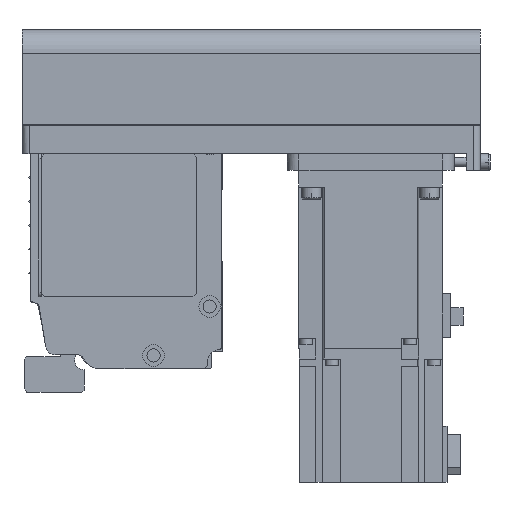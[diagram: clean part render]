
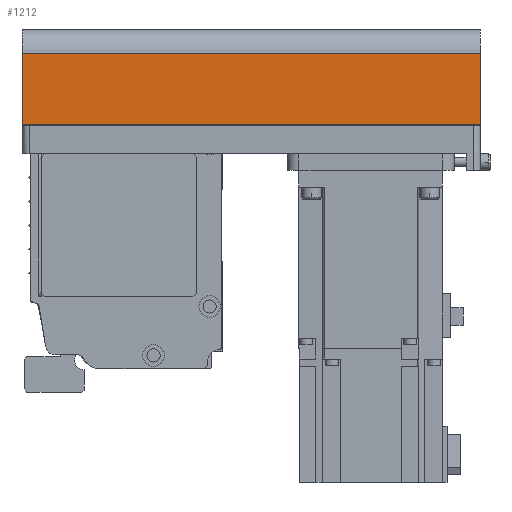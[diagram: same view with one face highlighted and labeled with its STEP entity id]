
A CAD part, left-side view. The second image highlights one B-rep face of the part: STEP entity #1212.
In plain terms, the highlighted planar face has unit normal (-1, 0, 0) as drawn and (0, -1, 0) by its records, which use the part's own axes.
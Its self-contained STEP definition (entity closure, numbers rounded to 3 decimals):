
#1212 = ADVANCED_FACE( '', ( #2890 ), #2891, .T. );
#2890 = FACE_OUTER_BOUND( '', #5162, .T. );
#2891 = PLANE( '', #5163 );
#5162 = EDGE_LOOP( '', ( #8464, #8465, #8466, #8467 ) );
#5163 = AXIS2_PLACEMENT_3D( '', #8468, #8469, #8470 );
#8464 = ORIENTED_EDGE( '', *, *, #14017, .F. );
#8465 = ORIENTED_EDGE( '', *, *, #14018, .F. );
#8466 = ORIENTED_EDGE( '', *, *, #13251, .T. );
#8467 = ORIENTED_EDGE( '', *, *, #13817, .T. );
#8468 = CARTESIAN_POINT( '', ( -192., -40., -12.1 ) );
#8469 = DIRECTION( '', ( 0., -1., 0. ) );
#8470 = DIRECTION( '', ( 0., 0., -1. ) );
#13251 = EDGE_CURVE( '', #15808, #15816, #15818, .T. );
#13817 = EDGE_CURVE( '', #15816, #16786, #16788, .T. );
#14017 = EDGE_CURVE( '', #17109, #16786, #17110, .T. );
#14018 = EDGE_CURVE( '', #15808, #17109, #17111, .T. );
#15808 = VERTEX_POINT( '', #19489 );
#15816 = VERTEX_POINT( '', #19500 );
#15818 = LINE( '', #19502, #19503 );
#16786 = VERTEX_POINT( '', #20794 );
#16788 = LINE( '', #20796, #20797 );
#17109 = VERTEX_POINT( '', #21213 );
#17110 = LINE( '', #21214, #21215 );
#17111 = LINE( '', #21216, #21217 );
#19489 = CARTESIAN_POINT( '', ( -192., -40., -12.1 ) );
#19500 = CARTESIAN_POINT( '', ( -192., -40., -42. ) );
#19502 = CARTESIAN_POINT( '', ( -192., -40., -12.1 ) );
#19503 = VECTOR( '', #24112, 1000. );
#20794 = CARTESIAN_POINT( '', ( 0., -40., -42. ) );
#20796 = CARTESIAN_POINT( '', ( -192., -40., -42. ) );
#20797 = VECTOR( '', #24856, 1000. );
#21213 = CARTESIAN_POINT( '', ( 0., -40., -12.1 ) );
#21214 = CARTESIAN_POINT( '', ( 0., -40., -12.1 ) );
#21215 = VECTOR( '', #25150, 1000. );
#21216 = CARTESIAN_POINT( '', ( -192., -40., -12.1 ) );
#21217 = VECTOR( '', #25151, 1000. );
#24112 = DIRECTION( '', ( 0., 0., -1. ) );
#24856 = DIRECTION( '', ( 1., 0., 0. ) );
#25150 = DIRECTION( '', ( 0., 0., -1. ) );
#25151 = DIRECTION( '', ( 1., 0., 0. ) );
